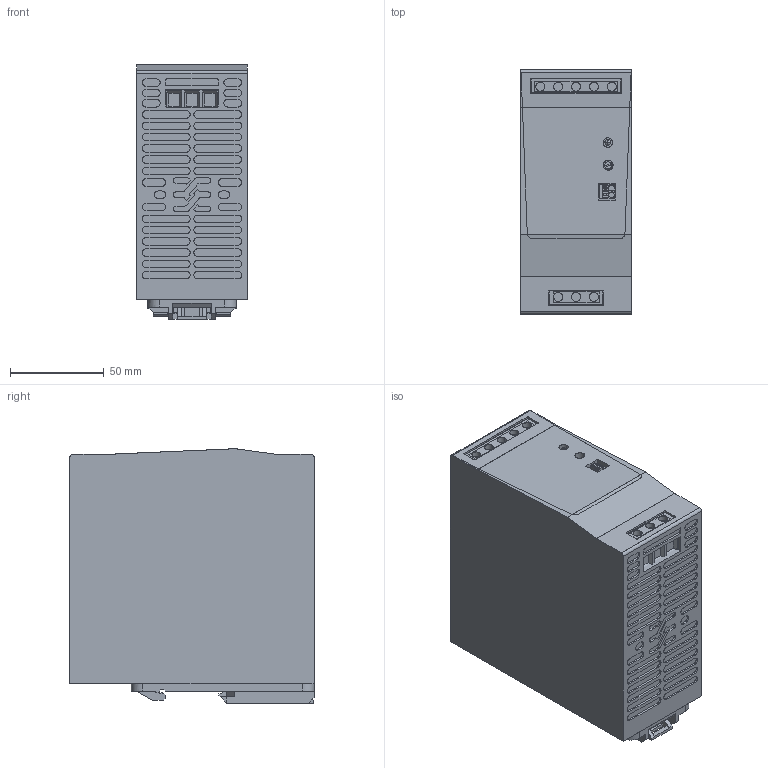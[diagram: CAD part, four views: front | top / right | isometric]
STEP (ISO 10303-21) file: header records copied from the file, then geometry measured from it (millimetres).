
FILE_DESCRIPTION(('CATIA V5 STEP Exchange','CAx-IF Rec.Pracs.--- Model Styling and Organization---1.4--- 2014-01-23'),'2;1');
FILE_NAME('C:\workspaces\S3D\S3D_2838480000_480W.stp','2022-08-31T12:26:56+00:00',('none'),('none'),'CATIA Version 5-6 Release 2016 SP3 HF44','CATIA V5 STEP AP214','none');
FILE_SCHEMA(('AUTOMOTIVE_DESIGN { 1 0 10303 214 1 1 1 1 }'));
Length unit declared in the file: millimetre
Products named in the file (1): 480W
Bounding box: 59 x 130 x 135.52 mm (x, y, z)
Volume: 972655.9 mm3; surface area: 112099.8 mm2
Topology: 11 solids, 11 shells, 1057 faces, 2795 edges, 1861 vertices
Faces by surface type: plane 690, cylinder 355, extrusion 8, sphere 4
Entity records: 33168 total; most frequent: CARTESIAN_POINT 7513, ORIENTED_EDGE 5582, DIRECTION 4553, EDGE_CURVE 2791, VECTOR 2043, LINE 2035, VERTEX_POINT 1861, AXIS2_PLACEMENT_3D 1561
